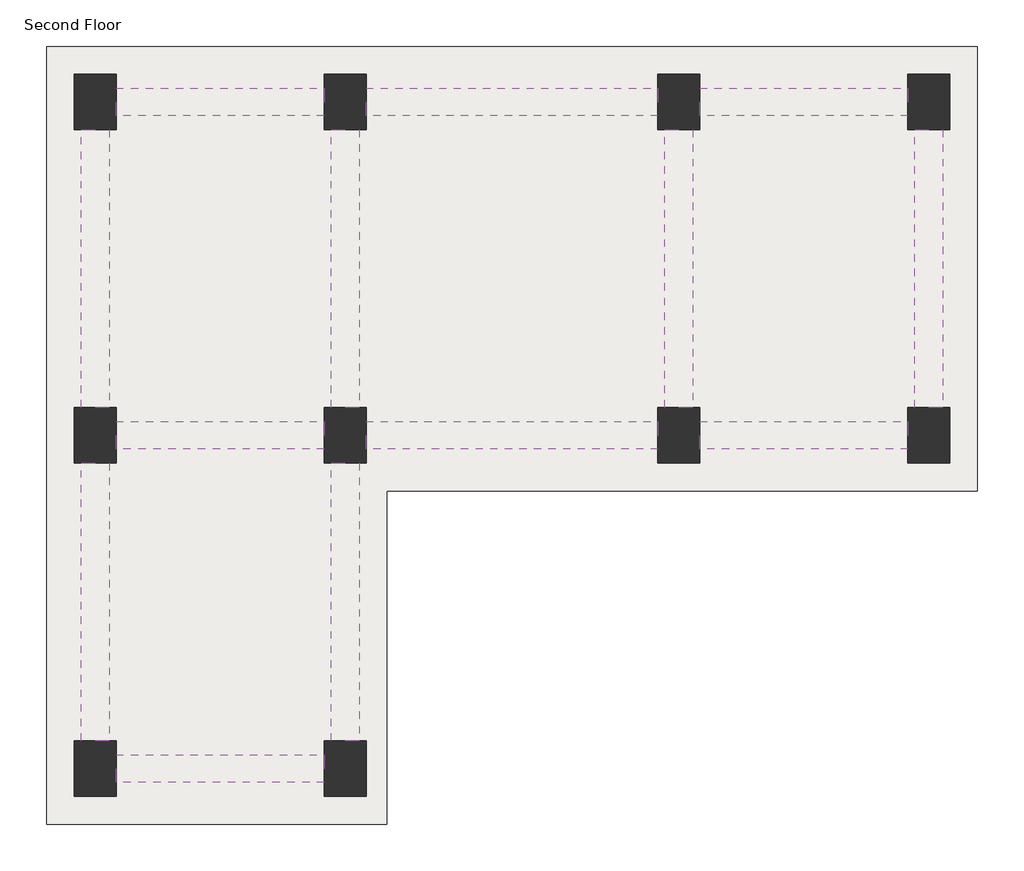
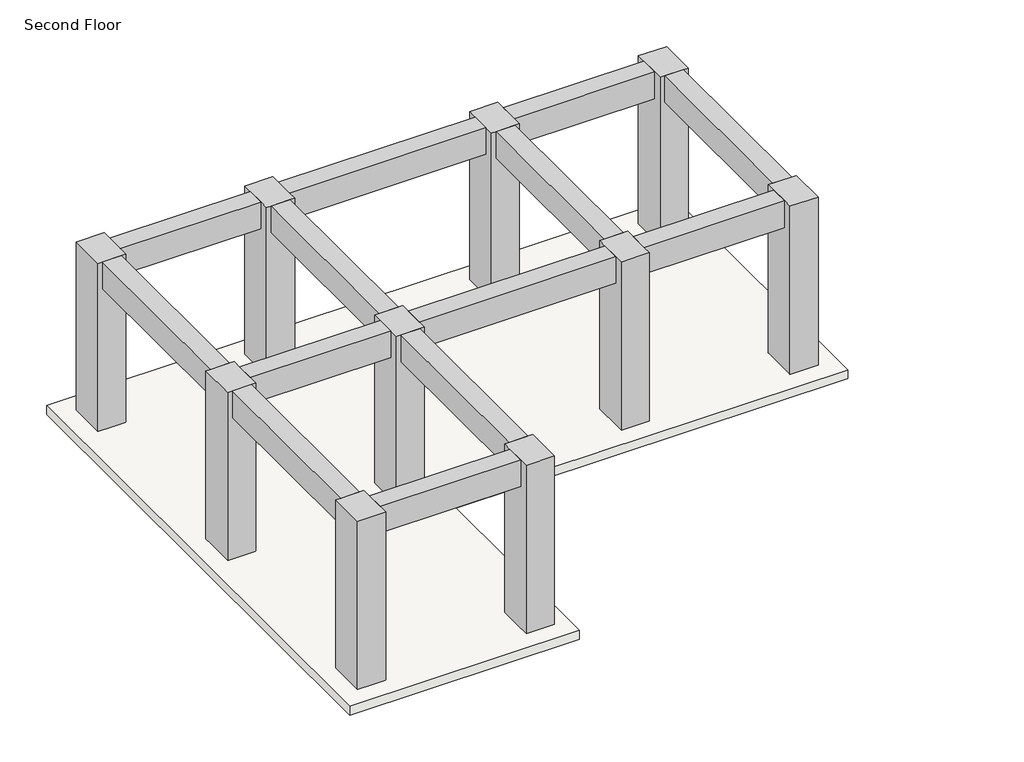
# One storey: 13 beams, 10 columns, 1 slab.
"""IFC4 building model written with IfcOpenShell, lengths in millimetres."""

from ifc_helpers import new_model, si_unit, frame, origin, place, context, project, spatial, polyline, outline, extrude, faceted_brep, element, save

model = new_model("IFC4")

# Units and contexts
model_context = context("Model", 3, world=origin())
ifc_project = project(units=[si_unit("LENGTHUNIT", "METRE", prefix="MILLI")], contexts=[model_context])

# Site, building, storey
site = spatial("IfcSite", under=ifc_project)
building = spatial("IfcBuilding", under=site)
storey = spatial("IfcBuildingStorey", under=building, Name="Second Floor", Elevation=9753.6)

# Beams
placement = place(None, origin())
element("IfcBeam", 1, ObjectType="Concrete-Rectangular Beam : 12 x 24", at=placement, inside=storey, context=model_context, shape_type="SweptSolid", body=[
    extrude(outline(polyline([(-23084.018666, 15705.8753347), (-23084.018666, 16010.6753347), (-20798.018666, 16010.6753347), (-20798.018666, 15705.8753347), (-23084.018666, 15705.8753347)])), frame((0.0, 0.0, 12192.0), z_axis=(0.0, 0.0, 1.0), x_axis=(1.0, 0.0, 0.0)), (0.0, 0.0, 1.0), 457.2),
])
element("IfcBeam", 2, ObjectType="Concrete-Rectangular Beam : 12 x 24", at=placement, inside=storey, context=model_context, shape_type="SweptSolid", body=[
    extrude(outline(polyline([(-20340.818666, 15705.8753347), (-20340.818666, 16010.6753347), (-17140.418666, 16010.6753347), (-17140.418666, 15705.8753347), (-20340.818666, 15705.8753347)])), frame((0.0, 0.0, 12192.0), z_axis=(0.0, 0.0, 1.0), x_axis=(1.0, 0.0, 0.0)), (0.0, 0.0, 1.0), 457.2),
])
element("IfcBeam", 3, ObjectType="Concrete-Rectangular Beam : 12 x 24", at=placement, inside=storey, context=model_context, shape_type="SweptSolid", body=[
    extrude(outline(polyline([(-16683.218666, 15705.8753347), (-16683.218666, 16010.6753347), (-14397.218666, 16010.6753347), (-14397.218666, 15705.8753347), (-16683.218666, 15705.8753347)])), frame((0.0, 0.0, 12192.0), z_axis=(0.0, 0.0, 1.0), x_axis=(1.0, 0.0, 0.0)), (0.0, 0.0, 1.0), 457.2),
])
element("IfcBeam", 4, ObjectType="Concrete-Rectangular Beam : 12 x 24", at=placement, inside=storey, context=model_context, shape_type="SweptSolid", body=[
    extrude(outline(polyline([(-14321.018666, 15553.4753347), (-14016.218666, 15553.4753347), (-14016.218666, 12505.4753347), (-14321.018666, 12505.4753347), (-14321.018666, 15553.4753347)])), frame((0.0, 0.0, 12192.0), z_axis=(0.0, 0.0, 1.0), x_axis=(1.0, 0.0, 0.0)), (0.0, 0.0, 1.0), 457.2),
])
element("IfcBeam", 5, ObjectType="Concrete-Rectangular Beam : 12 x 24", at=placement, inside=storey, context=model_context, shape_type="SweptSolid", body=[
    extrude(outline(polyline([(-16683.218666, 12048.2753347), (-16683.218666, 12353.0753347), (-14397.218666, 12353.0753347), (-14397.218666, 12048.2753347), (-16683.218666, 12048.2753347)])), frame((0.0, 0.0, 12192.0), z_axis=(0.0, 0.0, 1.0), x_axis=(1.0, 0.0, 0.0)), (0.0, 0.0, 1.0), 457.2),
])
element("IfcBeam", 6, ObjectType="Concrete-Rectangular Beam : 12 x 24", at=placement, inside=storey, context=model_context, shape_type="SweptSolid", body=[
    extrude(outline(polyline([(-20340.818666, 12048.2753347), (-20340.818666, 12353.0753347), (-17140.418666, 12353.0753347), (-17140.418666, 12048.2753347), (-20340.818666, 12048.2753347)])), frame((0.0, 0.0, 12192.0), z_axis=(0.0, 0.0, 1.0), x_axis=(1.0, 0.0, 0.0)), (0.0, 0.0, 1.0), 457.2),
])
element("IfcBeam", 7, ObjectType="Concrete-Rectangular Beam : 12 x 24", at=placement, inside=storey, context=model_context, shape_type="SweptSolid", body=[
    extrude(outline(polyline([(-23084.018666, 12048.2753347), (-23084.018666, 12353.0753347), (-20798.018666, 12353.0753347), (-20798.018666, 12048.2753347), (-23084.018666, 12048.2753347)])), frame((0.0, 0.0, 12192.0), z_axis=(0.0, 0.0, 1.0), x_axis=(1.0, 0.0, 0.0)), (0.0, 0.0, 1.0), 457.2),
])
element("IfcBeam", 8, ObjectType="Concrete-Rectangular Beam : 12 x 24", at=placement, inside=storey, context=model_context, shape_type="SweptSolid", body=[
    extrude(outline(polyline([(-23465.018666, 15553.4753347), (-23160.218666, 15553.4753347), (-23160.218666, 12505.4753347), (-23465.018666, 12505.4753347), (-23465.018666, 15553.4753347)])), frame((0.0, 0.0, 12192.0), z_axis=(0.0, 0.0, 1.0), x_axis=(1.0, 0.0, 0.0)), (0.0, 0.0, 1.0), 457.2),
])
element("IfcBeam", 9, ObjectType="Concrete-Rectangular Beam : 12 x 24", at=placement, inside=storey, context=model_context, shape_type="SweptSolid", body=[
    extrude(outline(polyline([(-23465.018666, 11895.8753347), (-23160.218666, 11895.8753347), (-23160.218666, 8847.8753347), (-23465.018666, 8847.8753347), (-23465.018666, 11895.8753347)])), frame((0.0, 0.0, 12192.0), z_axis=(0.0, 0.0, 1.0), x_axis=(1.0, 0.0, 0.0)), (0.0, 0.0, 1.0), 457.2),
])
element("IfcBeam", 10, ObjectType="Concrete-Rectangular Beam : 12 x 24", at=placement, inside=storey, context=model_context, shape_type="SweptSolid", body=[
    extrude(outline(polyline([(-23084.018666, 8390.6753347), (-23084.018666, 8695.4753347), (-20798.018666, 8695.4753347), (-20798.018666, 8390.6753347), (-23084.018666, 8390.6753347)])), frame((0.0, 0.0, 12192.0), z_axis=(0.0, 0.0, 1.0), x_axis=(1.0, 0.0, 0.0)), (0.0, 0.0, 1.0), 457.2),
])
element("IfcBeam", 11, ObjectType="Concrete-Rectangular Beam : 12 x 24", at=placement, inside=storey, context=model_context, shape_type="SweptSolid", body=[
    extrude(outline(polyline([(-20721.818666, 11895.8753347), (-20417.018666, 11895.8753347), (-20417.018666, 8847.8753347), (-20721.818666, 8847.8753347), (-20721.818666, 11895.8753347)])), frame((0.0, 0.0, 12192.0), z_axis=(0.0, 0.0, 1.0), x_axis=(1.0, 0.0, 0.0)), (0.0, 0.0, 1.0), 457.2),
])
element("IfcBeam", 12, ObjectType="Concrete-Rectangular Beam : 12 x 24", at=placement, inside=storey, context=model_context, shape_type="SweptSolid", body=[
    extrude(outline(polyline([(-20721.818666, 15553.4753347), (-20417.018666, 15553.4753347), (-20417.018666, 12505.4753347), (-20721.818666, 12505.4753347), (-20721.818666, 15553.4753347)])), frame((0.0, 0.0, 12192.0), z_axis=(0.0, 0.0, 1.0), x_axis=(1.0, 0.0, 0.0)), (0.0, 0.0, 1.0), 457.2),
])
element("IfcBeam", 13, ObjectType="Concrete-Rectangular Beam : 12 x 24", at=placement, inside=storey, context=model_context, shape_type="SweptSolid", body=[
    extrude(outline(polyline([(-17064.218666, 15553.4753347), (-16759.418666, 15553.4753347), (-16759.418666, 12505.4753347), (-17064.218666, 12505.4753347), (-17064.218666, 15553.4753347)])), frame((0.0, 0.0, 12192.0), z_axis=(0.0, 0.0, 1.0), x_axis=(1.0, 0.0, 0.0)), (0.0, 0.0, 1.0), 457.2),
])

# Columns
element("IfcColumn", 14, ObjectType="Concrete-Rectangular-Column : 18 x 24", at=placement, inside=storey, context=model_context, shape_type="Brep", body=[
    faceted_brep([(-23084.018666, 16163.0753347, 9753.6), (-23084.018666, 15553.4753347, 9753.6), (-23541.218666, 15553.4753347, 9753.6), (-23541.218666, 16163.0753347, 9753.6), (-23084.018666, 16163.0753347, 12649.2), (-23084.018666, 16010.6753347, 12649.2), (-23084.018666, 15705.8753347, 12649.2), (-23084.018666, 15553.4753347, 12649.2), (-23160.218666, 15553.4753347, 12649.2), (-23465.018666, 15553.4753347, 12649.2), (-23541.218666, 15553.4753347, 12649.2), (-23541.218666, 16163.0753347, 12649.2)], [[[0, 1, 2, 3]], [[1, 0, 4, 5, 6, 7]], [[2, 1, 7, 8, 9, 10]], [[3, 2, 10, 11]], [[0, 3, 11, 4]], [[7, 6, 5, 4, 11, 10, 9, 8]]]),
])
element("IfcColumn", 15, ObjectType="Concrete-Rectangular-Column : 18 x 24", at=placement, inside=storey, context=model_context, shape_type="Brep", body=[
    faceted_brep([(-20340.818666, 16163.0753347, 9753.6), (-20340.818666, 15553.4753347, 9753.6), (-20798.018666, 15553.4753347, 9753.6), (-20798.018666, 16163.0753347, 9753.6), (-20340.818666, 16163.0753347, 12649.2), (-20340.818666, 16010.6753347, 12649.2), (-20340.818666, 15705.8753347, 12649.2), (-20340.818666, 15553.4753347, 12649.2), (-20417.018666, 15553.4753347, 12649.2), (-20721.818666, 15553.4753347, 12649.2), (-20798.018666, 15553.4753347, 12649.2), (-20798.018666, 15705.8753347, 12649.2), (-20798.018666, 16010.6753347, 12649.2), (-20798.018666, 16163.0753347, 12649.2)], [[[0, 1, 2, 3]], [[1, 0, 4, 5, 6, 7]], [[2, 1, 7, 8, 9, 10]], [[3, 2, 10, 11, 12, 13]], [[0, 3, 13, 4]], [[7, 6, 5, 4, 13, 12, 11, 10, 9, 8]]]),
])
element("IfcColumn", 16, ObjectType="Concrete-Rectangular-Column : 18 x 24", at=placement, inside=storey, context=model_context, shape_type="Brep", body=[
    faceted_brep([(-16683.218666, 16163.0753347, 9753.6), (-16683.218666, 15553.4753347, 9753.6), (-17140.418666, 15553.4753347, 9753.6), (-17140.418666, 16163.0753347, 9753.6), (-16683.218666, 16163.0753347, 12649.2), (-16683.218666, 16010.6753347, 12649.2), (-16683.218666, 15705.8753347, 12649.2), (-16683.218666, 15553.4753347, 12649.2), (-16759.418666, 15553.4753347, 12649.2), (-17064.218666, 15553.4753347, 12649.2), (-17140.418666, 15553.4753347, 12649.2), (-17140.418666, 15705.8753347, 12649.2), (-17140.418666, 16010.6753347, 12649.2), (-17140.418666, 16163.0753347, 12649.2)], [[[0, 1, 2, 3]], [[1, 0, 4, 5, 6, 7]], [[2, 1, 7, 8, 9, 10]], [[3, 2, 10, 11, 12, 13]], [[0, 3, 13, 4]], [[7, 6, 5, 4, 13, 12, 11, 10, 9, 8]]]),
])
element("IfcColumn", 17, ObjectType="Concrete-Rectangular-Column : 18 x 24", at=placement, inside=storey, context=model_context, shape_type="Brep", body=[
    faceted_brep([(-13940.018666, 16163.0753347, 9753.6), (-13940.018666, 15553.4753347, 9753.6), (-14397.218666, 15553.4753347, 9753.6), (-14397.218666, 16163.0753347, 9753.6), (-13940.018666, 16163.0753347, 12649.2), (-13940.018666, 15553.4753347, 12649.2), (-14016.218666, 15553.4753347, 12649.2), (-14321.018666, 15553.4753347, 12649.2), (-14397.218666, 15553.4753347, 12649.2), (-14397.218666, 15705.8753347, 12649.2), (-14397.218666, 16010.6753347, 12649.2), (-14397.218666, 16163.0753347, 12649.2)], [[[0, 1, 2, 3]], [[1, 0, 4, 5]], [[2, 1, 5, 6, 7, 8]], [[3, 2, 8, 9, 10, 11]], [[0, 3, 11, 4]], [[5, 4, 11, 10, 9, 8, 7, 6]]]),
])
element("IfcColumn", 18, ObjectType="Concrete-Rectangular-Column : 18 x 24", at=placement, inside=storey, context=model_context, shape_type="Brep", body=[
    faceted_brep([(-23084.018666, 12505.4753347, 9753.6), (-23084.018666, 11895.8753347, 9753.6), (-23541.218666, 11895.8753347, 9753.6), (-23541.218666, 12505.4753347, 9753.6), (-23084.018666, 12505.4753347, 12649.2), (-23084.018666, 12353.0753347, 12649.2), (-23084.018666, 12048.2753347, 12649.2), (-23084.018666, 11895.8753347, 12649.2), (-23160.218666, 11895.8753347, 12649.2), (-23465.018666, 11895.8753347, 12649.2), (-23541.218666, 11895.8753347, 12649.2), (-23541.218666, 12505.4753347, 12649.2), (-23465.018666, 12505.4753347, 12649.2), (-23160.218666, 12505.4753347, 12649.2)], [[[0, 1, 2, 3]], [[1, 0, 4, 5, 6, 7]], [[2, 1, 7, 8, 9, 10]], [[3, 2, 10, 11]], [[0, 3, 11, 12, 13, 4]], [[7, 6, 5, 4, 13, 12, 11, 10, 9, 8]]]),
])
element("IfcColumn", 19, ObjectType="Concrete-Rectangular-Column : 18 x 24", at=placement, inside=storey, context=model_context, shape_type="Brep", body=[
    faceted_brep([(-20340.818666, 12505.4753347, 9753.6), (-20340.818666, 11895.8753347, 9753.6), (-20798.018666, 11895.8753347, 9753.6), (-20798.018666, 12505.4753347, 9753.6), (-20340.818666, 12505.4753347, 12649.2), (-20340.818666, 12353.0753347, 12649.2), (-20340.818666, 12048.2753347, 12649.2), (-20340.818666, 11895.8753347, 12649.2), (-20417.018666, 11895.8753347, 12649.2), (-20721.818666, 11895.8753347, 12649.2), (-20798.018666, 11895.8753347, 12649.2), (-20798.018666, 12048.2753347, 12649.2), (-20798.018666, 12353.0753347, 12649.2), (-20798.018666, 12505.4753347, 12649.2), (-20721.818666, 12505.4753347, 12649.2), (-20417.018666, 12505.4753347, 12649.2)], [[[0, 1, 2, 3]], [[1, 0, 4, 5, 6, 7]], [[2, 1, 7, 8, 9, 10]], [[3, 2, 10, 11, 12, 13]], [[0, 3, 13, 14, 15, 4]], [[7, 6, 5, 4, 15, 14, 13, 12, 11, 10, 9, 8]]]),
])
element("IfcColumn", 20, ObjectType="Concrete-Rectangular-Column : 18 x 24", at=placement, inside=storey, context=model_context, shape_type="Brep", body=[
    faceted_brep([(-16683.218666, 12505.4753347, 9753.6), (-16683.218666, 11895.8753347, 9753.6), (-17140.418666, 11895.8753347, 9753.6), (-17140.418666, 12505.4753347, 9753.6), (-16683.218666, 12505.4753347, 12649.2), (-16683.218666, 12353.0753347, 12649.2), (-16683.218666, 12048.2753347, 12649.2), (-16683.218666, 11895.8753347, 12649.2), (-17140.418666, 11895.8753347, 12649.2), (-17140.418666, 12048.2753347, 12649.2), (-17140.418666, 12353.0753347, 12649.2), (-17140.418666, 12505.4753347, 12649.2), (-17064.218666, 12505.4753347, 12649.2), (-16759.418666, 12505.4753347, 12649.2)], [[[0, 1, 2, 3]], [[1, 0, 4, 5, 6, 7]], [[2, 1, 7, 8]], [[3, 2, 8, 9, 10, 11]], [[0, 3, 11, 12, 13, 4]], [[7, 6, 5, 4, 13, 12, 11, 10, 9, 8]]]),
])
element("IfcColumn", 21, ObjectType="Concrete-Rectangular-Column : 18 x 24", at=placement, inside=storey, context=model_context, shape_type="Brep", body=[
    faceted_brep([(-13940.018666, 12505.4753347, 9753.6), (-13940.018666, 11895.8753347, 9753.6), (-14397.218666, 11895.8753347, 9753.6), (-14397.218666, 12505.4753347, 9753.6), (-13940.018666, 12505.4753347, 12649.2), (-13940.018666, 11895.8753347, 12649.2), (-14397.218666, 11895.8753347, 12649.2), (-14397.218666, 12048.2753347, 12649.2), (-14397.218666, 12353.0753347, 12649.2), (-14397.218666, 12505.4753347, 12649.2), (-14321.018666, 12505.4753347, 12649.2), (-14016.218666, 12505.4753347, 12649.2)], [[[0, 1, 2, 3]], [[1, 0, 4, 5]], [[2, 1, 5, 6]], [[3, 2, 6, 7, 8, 9]], [[0, 3, 9, 10, 11, 4]], [[5, 4, 11, 10, 9, 8, 7, 6]]]),
])
element("IfcColumn", 22, ObjectType="Concrete-Rectangular-Column : 18 x 24", at=placement, inside=storey, context=model_context, shape_type="Brep", body=[
    faceted_brep([(-23084.018666, 8847.8753347, 9753.6), (-23084.018666, 8238.2753347, 9753.6), (-23541.218666, 8238.2753347, 9753.6), (-23541.218666, 8847.8753347, 9753.6), (-23084.018666, 8847.8753347, 12649.2), (-23084.018666, 8695.4753347, 12649.2), (-23084.018666, 8390.6753347, 12649.2), (-23084.018666, 8238.2753347, 12649.2), (-23541.218666, 8238.2753347, 12649.2), (-23541.218666, 8847.8753347, 12649.2), (-23465.018666, 8847.8753347, 12649.2), (-23160.218666, 8847.8753347, 12649.2)], [[[0, 1, 2, 3]], [[1, 0, 4, 5, 6, 7]], [[2, 1, 7, 8]], [[3, 2, 8, 9]], [[0, 3, 9, 10, 11, 4]], [[7, 6, 5, 4, 11, 10, 9, 8]]]),
])
element("IfcColumn", 23, ObjectType="Concrete-Rectangular-Column : 18 x 24", at=placement, inside=storey, context=model_context, shape_type="Brep", body=[
    faceted_brep([(-20340.818666, 8847.8753347, 9753.6), (-20340.818666, 8238.2753347, 9753.6), (-20798.018666, 8238.2753347, 9753.6), (-20798.018666, 8847.8753347, 9753.6), (-20340.818666, 8847.8753347, 12649.2), (-20340.818666, 8238.2753347, 12649.2), (-20798.018666, 8238.2753347, 12649.2), (-20798.018666, 8390.6753347, 12649.2), (-20798.018666, 8695.4753347, 12649.2), (-20798.018666, 8847.8753347, 12649.2), (-20721.818666, 8847.8753347, 12649.2), (-20417.018666, 8847.8753347, 12649.2)], [[[0, 1, 2, 3]], [[1, 0, 4, 5]], [[2, 1, 5, 6]], [[3, 2, 6, 7, 8, 9]], [[0, 3, 9, 10, 11, 4]], [[5, 4, 11, 10, 9, 8, 7, 6]]]),
])

# Slab
element("IfcSlab", 24, ObjectType="6\" Concrete", at=placement, inside=storey, context=model_context, shape_type="SweptSolid", body=[
    extrude(outline(polyline([(-13635.218666, 11591.0753347), (-20112.218666, 11591.0753347), (-20112.218666, 7933.4753347), (-23846.018666, 7933.4753347), (-23846.018666, 16467.8753347), (-13635.218666, 16467.8753347), (-13635.218666, 11591.0753347)])), frame((0.0, 0.0, 9601.2), z_axis=(0.0, 0.0, 1.0), x_axis=(1.0, 0.0, 0.0)), (0.0, 0.0, 1.0), 152.4),
])

save(model, "model.ifc")
